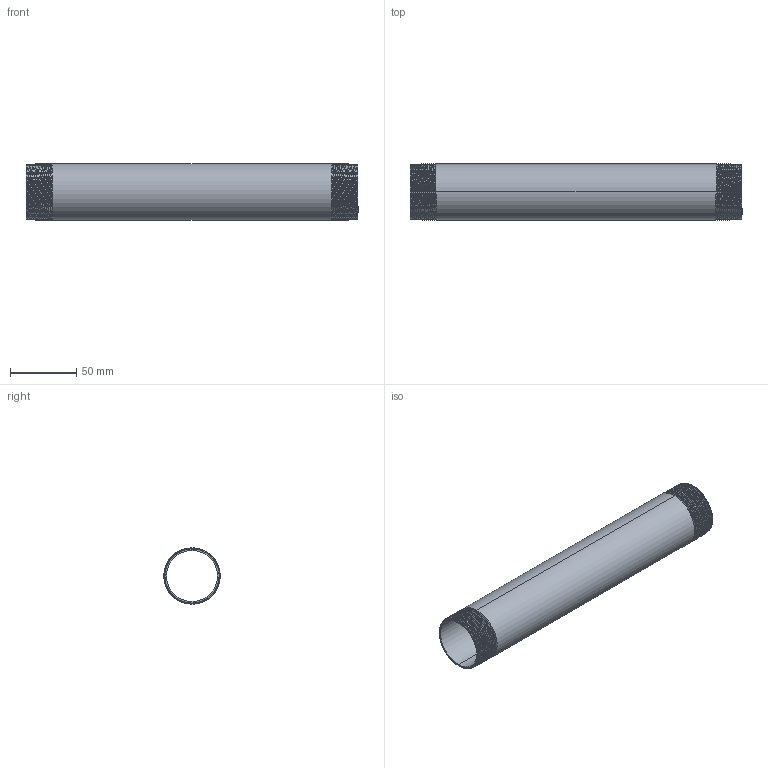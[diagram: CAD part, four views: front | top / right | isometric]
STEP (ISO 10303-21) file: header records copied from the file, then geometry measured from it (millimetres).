
FILE_DESCRIPTION (( 'STEP AP203' ), '1' );
FILE_NAME ('3D_R210_1 1-4x250_17185933.STEP', '2024-08-16T14:06:41', ( '' ), ( '' ), 'SwSTEP 2.0', 'SolidWorks 2024', '' );
FILE_SCHEMA (( 'CONFIG_CONTROL_DESIGN' ));
Length unit declared in the file: millimetre
Products named in the file (1): 3D_R210_1 1-4x250_17185933
Bounding box: 250 x 42.37 x 42.4 mm (x, y, z)
Volume: 61185.4 mm3; surface area: 66533.5 mm2
Topology: 1 solids, 1 shells, 70 faces, 198 edges, 130 vertices
Faces by surface type: cone 56, bspline 6, cylinder 4, plane 4
Entity records: 11969 total; most frequent: CARTESIAN_POINT 10337, ORIENTED_EDGE 396, DIRECTION 218, EDGE_CURVE 198, VERTEX_POINT 130, B_SPLINE_CURVE_WITH_KNOTS 114, AXIS2_PLACEMENT_3D 77, EDGE_LOOP 72
